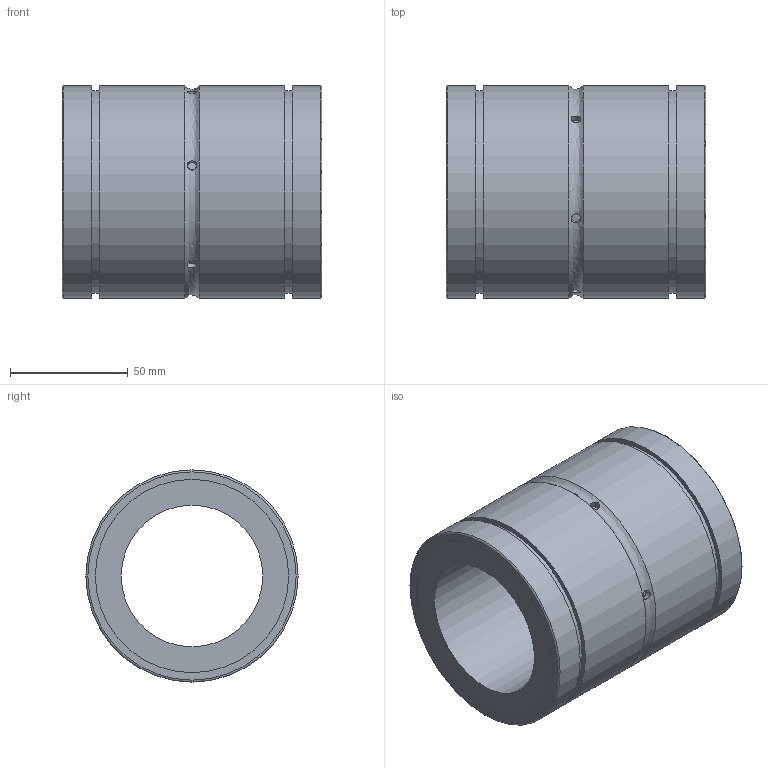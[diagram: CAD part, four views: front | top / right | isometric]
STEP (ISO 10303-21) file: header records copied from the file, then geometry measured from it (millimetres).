
FILE_DESCRIPTION((''),'2;1');
FILE_NAME('D:\製品 (図面)\カタログ用3D\リニアベアリング関連\STEP形式\L-OH\L60-OH.stp','2010-06-04T09:32:34',('Tsuchiya'),(''),'Autodesk Inventor 10','Autodesk Inventor 10','');
FILE_SCHEMA(('AUTOMOTIVE_DESIGN { 1 0 10303 214 1 1 1 1 }'));
Length unit declared in the file: millimetre
Products named in the file (1): L60-OH
Bounding box: 110 x 90 x 90 mm (x, y, z)
Volume: 382781 mm3; surface area: 61313 mm2
Topology: 1 solids, 1 shells, 32 faces, 56 edges, 38 vertices
Faces by surface type: cylinder 15, plane 8, bspline 7, torus 2
Full cylindrical faces by diameter (mm): 60 x1, 82 x2, 86 x2, 90 x4
Entity records: 1413 total; most frequent: CARTESIAN_POINT 903, DIRECTION 92, ORIENTED_EDGE 64, EDGE_LOOP 64, AXIS2_PLACEMENT_3D 46, VERTEX_POINT 32, EDGE_CURVE 32, FACE_OUTER_BOUND 32
